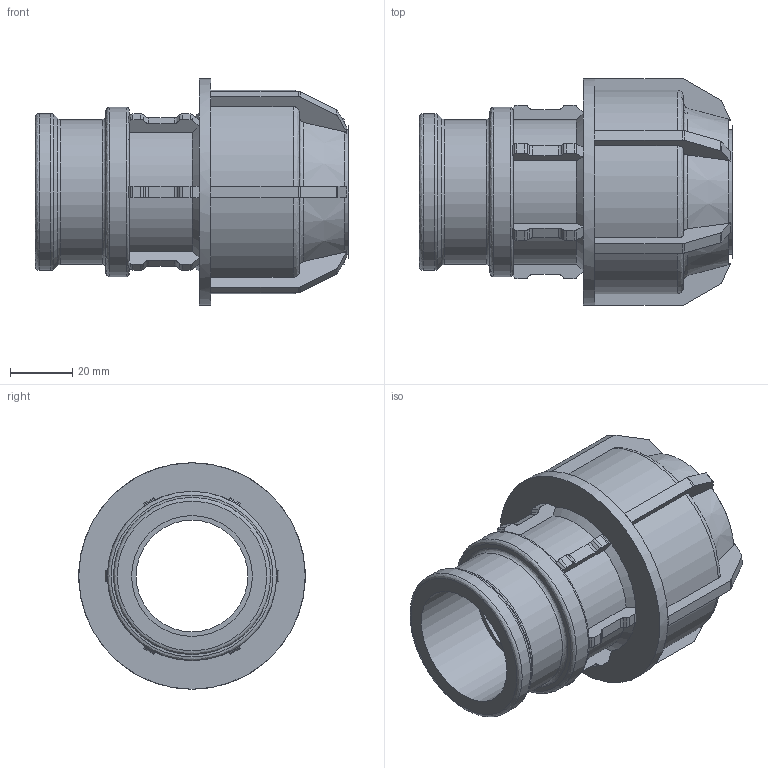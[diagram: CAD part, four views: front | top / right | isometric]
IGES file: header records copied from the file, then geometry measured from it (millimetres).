
Global section: file name: 140300040013.ipt; native system: Autodesk Inventor 2015; preprocessor: unknown; author: KIM; date: 20180409.131011; units: millimetre
Bounding box: 101 x 73 x 73 mm (x, y, z)
Volume: 122849.4 mm3; surface area: 40065.6 mm2
Topology: 1 solids, 1 shells, 259 faces, 727 edges, 471 vertices
Faces by surface type: plane 158, cylinder 52, revolution 36, cone 13
Full cylindrical faces by diameter (mm): 46.742 x1, 50.638 x1, 54.533 x1, 73 x1
